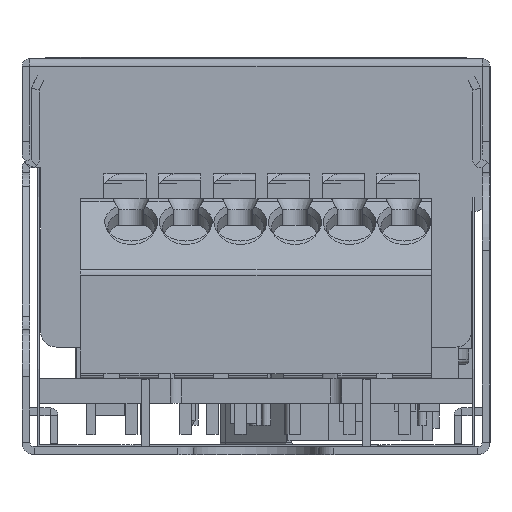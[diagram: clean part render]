
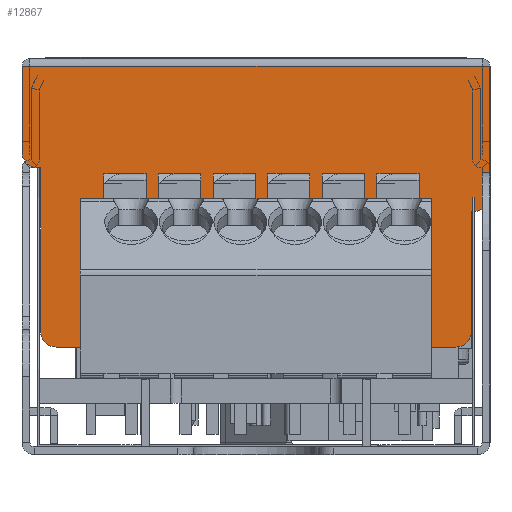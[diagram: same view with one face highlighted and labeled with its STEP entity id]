
A CAD part, left-side view. The second image highlights one B-rep face of the part: STEP entity #12867.
In plain terms, the highlighted planar face has unit normal (-1, 0, 0).
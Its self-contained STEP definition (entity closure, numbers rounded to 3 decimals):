
#10681=DIRECTION('',(0.,-1.,0.));
#10682=VECTOR('',#10681,29.);
#10683=CARTESIAN_POINT('',(-113.2,14.5,-0.5));
#10684=LINE('',#10683,#10682);
#10699=CARTESIAN_POINT('',(-113.2,14.,-6.));
#10700=DIRECTION('',(-1.,0.,0.));
#10701=DIRECTION('',(0.,1.,0.));
#10702=AXIS2_PLACEMENT_3D('',#10699,#10700,#10701);
#10704=DIRECTION('',(0.,0.,-1.));
#10705=VECTOR('',#10704,5.5);
#10706=CARTESIAN_POINT('',(-113.2,15.,-0.5));
#10707=LINE('',#10706,#10705);
#10708=DIRECTION('',(0.,1.,0.));
#10709=VECTOR('',#10708,0.5);
#10710=CARTESIAN_POINT('',(-113.2,14.5,-0.5));
#10711=LINE('',#10710,#10709);
#10712=DIRECTION('',(0.,1.,0.));
#10713=VECTOR('',#10712,0.5);
#10714=CARTESIAN_POINT('',(-113.2,-15.,-0.5));
#10715=LINE('',#10714,#10713);
#10716=DIRECTION('',(0.,0.,1.));
#10717=VECTOR('',#10716,8.3);
#10718=CARTESIAN_POINT('',(-113.2,-15.,-8.8));
#10719=LINE('',#10718,#10717);
#10720=CARTESIAN_POINT('',(-113.2,-14.,-8.8));
#10721=DIRECTION('',(-1.,0.,0.));
#10722=DIRECTION('',(0.,0.,-1.));
#10723=AXIS2_PLACEMENT_3D('',#10720,#10721,#10722);
#10725=DIRECTION('',(0.,-1.,0.));
#10726=VECTOR('',#10725,0.2);
#10727=CARTESIAN_POINT('',(-113.2,-13.8,-9.8));
#10728=LINE('',#10727,#10726);
#10729=DIRECTION('',(0.,0.,1.));
#10730=VECTOR('',#10729,7.7);
#10731=CARTESIAN_POINT('',(-113.2,-13.8,-17.5));
#10732=LINE('',#10731,#10730);
#10733=CARTESIAN_POINT('',(-113.2,-12.8,-17.5));
#10734=DIRECTION('',(-1.,0.,0.));
#10735=DIRECTION('',(0.,0.,-1.));
#10736=AXIS2_PLACEMENT_3D('',#10733,#10734,#10735);
#10738=DIRECTION('',(0.,1.,0.));
#10739=VECTOR('',#10738,25.6);
#10740=CARTESIAN_POINT('',(-113.2,-12.8,-18.5));
#10741=LINE('',#10740,#10739);
#10742=CARTESIAN_POINT('',(-113.2,12.8,-17.5));
#10743=DIRECTION('',(-1.,0.,0.));
#10744=DIRECTION('',(0.,1.,0.));
#10745=AXIS2_PLACEMENT_3D('',#10742,#10743,#10744);
#10747=DIRECTION('',(0.,0.,1.));
#10748=VECTOR('',#10747,10.5);
#10749=CARTESIAN_POINT('',(-113.2,13.8,-17.5));
#10750=LINE('',#10749,#10748);
#10751=DIRECTION('',(0.,-1.,0.));
#10752=VECTOR('',#10751,0.2);
#10753=CARTESIAN_POINT('',(-113.2,14.,-7.));
#10754=LINE('',#10753,#10752);
#11495=CARTESIAN_POINT('',(-113.2,14.5,-0.5));
#11497=VERTEX_POINT('',#11495);
#11499=CARTESIAN_POINT('',(-113.2,-14.5,-0.5));
#11501=VERTEX_POINT('',#11499);
#11747=CARTESIAN_POINT('',(-113.2,-15.,-0.5));
#11748=VERTEX_POINT('',#11747);
#11751=CARTESIAN_POINT('',(-113.2,15.,-0.5));
#11752=VERTEX_POINT('',#11751);
#11755=CARTESIAN_POINT('',(-113.2,13.8,-7.));
#11757=VERTEX_POINT('',#11755);
#11759=CARTESIAN_POINT('',(-113.2,-13.8,-9.8));
#11761=VERTEX_POINT('',#11759);
#11791=CARTESIAN_POINT('',(-113.2,-12.8,-18.5));
#11792=CARTESIAN_POINT('',(-113.2,-13.8,-17.5));
#11793=VERTEX_POINT('',#11791);
#11794=VERTEX_POINT('',#11792);
#11799=CARTESIAN_POINT('',(-113.2,12.8,-18.5));
#11800=VERTEX_POINT('',#11799);
#11819=CARTESIAN_POINT('',(-113.2,15.,-6.));
#11820=CARTESIAN_POINT('',(-113.2,14.,-7.));
#11821=VERTEX_POINT('',#11819);
#11822=VERTEX_POINT('',#11820);
#11827=CARTESIAN_POINT('',(-113.2,-14.,-9.8));
#11828=CARTESIAN_POINT('',(-113.2,-15.,-8.8));
#11829=VERTEX_POINT('',#11827);
#11830=VERTEX_POINT('',#11828);
#11835=CARTESIAN_POINT('',(-113.2,13.8,-17.5));
#11836=VERTEX_POINT('',#11835);
#12833=CARTESIAN_POINT('',(-113.2,-14.5,0.));
#12834=DIRECTION('',(1.,0.,0.));
#12835=DIRECTION('',(0.,-1.,0.));
#12836=AXIS2_PLACEMENT_3D('',#12833,#12834,#12835);
#12837=PLANE('',#12836);
#12839=ORIENTED_EDGE('',*,*,#12838,.F.);
#12841=ORIENTED_EDGE('',*,*,#12840,.F.);
#12843=ORIENTED_EDGE('',*,*,#12842,.F.);
#12844=ORIENTED_EDGE('',*,*,#12824,.T.);
#12846=ORIENTED_EDGE('',*,*,#12845,.F.);
#12848=ORIENTED_EDGE('',*,*,#12847,.F.);
#12850=ORIENTED_EDGE('',*,*,#12849,.F.);
#12852=ORIENTED_EDGE('',*,*,#12851,.F.);
#12854=ORIENTED_EDGE('',*,*,#12853,.F.);
#12856=ORIENTED_EDGE('',*,*,#12855,.F.);
#12858=ORIENTED_EDGE('',*,*,#12857,.T.);
#12860=ORIENTED_EDGE('',*,*,#12859,.F.);
#12862=ORIENTED_EDGE('',*,*,#12861,.T.);
#12864=ORIENTED_EDGE('',*,*,#12863,.F.);
#12865=EDGE_LOOP('',(#12839,#12841,#12843,#12844,#12846,#12848,#12850,#12852,
#12854,#12856,#12858,#12860,#12862,#12864));
#12866=FACE_OUTER_BOUND('',#12865,.F.);
#10703=CIRCLE('',#10702,1.);
#10724=CIRCLE('',#10723,1.);
#10737=CIRCLE('',#10736,1.);
#10746=CIRCLE('',#10745,1.);
#12824=EDGE_CURVE('',#11497,#11501,#10684,.T.);
#12838=EDGE_CURVE('',#11821,#11822,#10703,.T.);
#12840=EDGE_CURVE('',#11752,#11821,#10707,.T.);
#12842=EDGE_CURVE('',#11497,#11752,#10711,.T.);
#12845=EDGE_CURVE('',#11748,#11501,#10715,.T.);
#12847=EDGE_CURVE('',#11830,#11748,#10719,.T.);
#12849=EDGE_CURVE('',#11829,#11830,#10724,.T.);
#12851=EDGE_CURVE('',#11761,#11829,#10728,.T.);
#12853=EDGE_CURVE('',#11794,#11761,#10732,.T.);
#12855=EDGE_CURVE('',#11793,#11794,#10737,.T.);
#12857=EDGE_CURVE('',#11793,#11800,#10741,.T.);
#12859=EDGE_CURVE('',#11836,#11800,#10746,.T.);
#12861=EDGE_CURVE('',#11836,#11757,#10750,.T.);
#12863=EDGE_CURVE('',#11822,#11757,#10754,.T.);
#12867=ADVANCED_FACE('',(#12866),#12837,.F.);
